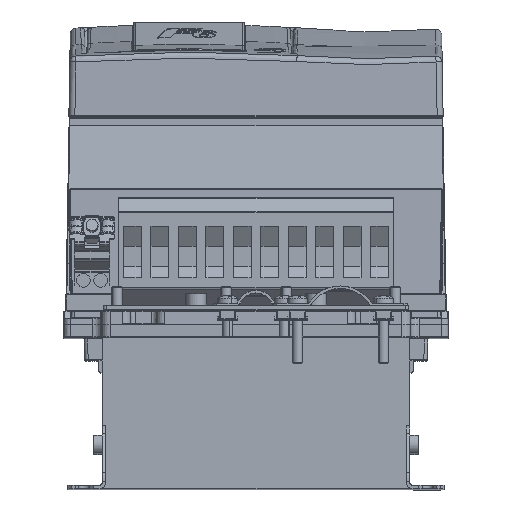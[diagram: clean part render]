
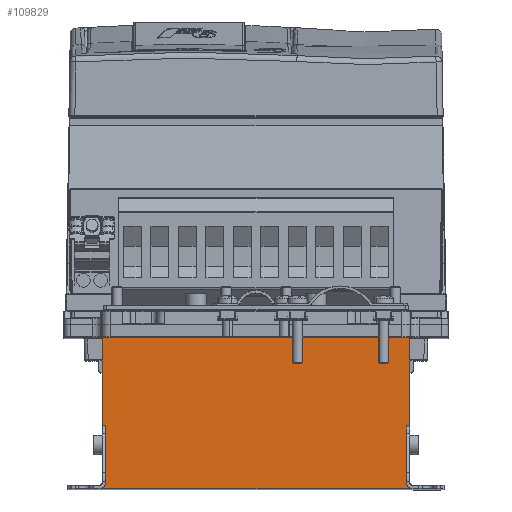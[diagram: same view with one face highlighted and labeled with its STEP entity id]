
A CAD part, top view. The second image highlights one B-rep face of the part: STEP entity #109829.
In plain terms, the highlighted planar face has unit normal (0, 0, 1).
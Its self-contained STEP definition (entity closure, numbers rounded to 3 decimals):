
#3274 = CARTESIAN_POINT ( 'NONE',  ( 87., 10., 159. ) ) ;
#5801 = EDGE_CURVE ( 'NONE', #85781, #67683, #37332, .T. ) ;
#7656 = DIRECTION ( 'NONE',  ( -1., 0., 0. ) ) ;
#9192 = CARTESIAN_POINT ( 'NONE',  ( -87.5, 13., 159. ) ) ;
#9489 = DIRECTION ( 'NONE',  ( 0., 0., -1. ) ) ;
#10273 = FACE_OUTER_BOUND ( 'NONE', #91333, .T. ) ;
#15371 = VERTEX_POINT ( 'NONE', #25381 ) ;
#16420 = ORIENTED_EDGE ( 'NONE', *, *, #116152, .F. ) ;
#17045 = CARTESIAN_POINT ( 'NONE',  ( -89.5, -75., 159. ) ) ;
#17199 = CARTESIAN_POINT ( 'NONE',  ( -87.5, -38., 159. ) ) ;
#18766 = LINE ( 'NONE', #66063, #56577 ) ;
#19753 = CARTESIAN_POINT ( 'NONE',  ( 89.5, -38., 159. ) ) ;
#20284 = DIRECTION ( 'NONE',  ( 0., -1., 0. ) ) ;
#20365 = DIRECTION ( 'NONE',  ( -1., 0., 0. ) ) ;
#21633 = PLANE ( 'NONE',  #71684 ) ;
#24004 = ORIENTED_EDGE ( 'NONE', *, *, #30196, .T. ) ;
#25221 = CIRCLE ( 'NONE', #87715, 4. ) ;
#25381 = CARTESIAN_POINT ( 'NONE',  ( 89.5, -38., 159. ) ) ;
#26044 = CARTESIAN_POINT ( 'NONE',  ( 91.5, -38., 159. ) ) ;
#28257 = VERTEX_POINT ( 'NONE', #113509 ) ;
#30196 = EDGE_CURVE ( 'NONE', #59697, #80621, #25221, .T. ) ;
#34382 = DIRECTION ( 'NONE',  ( 0., -1., 0. ) ) ;
#37256 = EDGE_CURVE ( 'NONE', #108425, #67683, #18766, .T. ) ;
#37332 = LINE ( 'NONE', #114932, #45359 ) ;
#42048 = ORIENTED_EDGE ( 'NONE', *, *, #118722, .T. ) ;
#44393 = ORIENTED_EDGE ( 'NONE', *, *, #37256, .T. ) ;
#44439 = CARTESIAN_POINT ( 'NONE',  ( -85.5, -38., 159. ) ) ;
#45359 = VECTOR ( 'NONE', #7656, 1000. ) ;
#50009 = LINE ( 'NONE', #19753, #75912 ) ;
#51746 = CARTESIAN_POINT ( 'NONE',  ( -85.5, -71., 159. ) ) ;
#53957 = EDGE_CURVE ( 'NONE', #83896, #15371, #50009, .T. ) ;
#53958 = ORIENTED_EDGE ( 'NONE', *, *, #70246, .T. ) ;
#56577 = VECTOR ( 'NONE', #105846, 1000. ) ;
#57644 = DIRECTION ( 'NONE',  ( 0., 1., 0. ) ) ;
#58210 = DIRECTION ( 'NONE',  ( -1., 0., 0. ) ) ;
#59697 = VERTEX_POINT ( 'NONE', #51746 ) ;
#61549 = VERTEX_POINT ( 'NONE', #91401 ) ;
#62138 = LINE ( 'NONE', #120819, #71602 ) ;
#62949 = ORIENTED_EDGE ( 'NONE', *, *, #90809, .F. ) ;
#64301 = CIRCLE ( 'NONE', #122796, 4. ) ;
#66021 = ORIENTED_EDGE ( 'NONE', *, *, #123620, .F. ) ;
#66063 = CARTESIAN_POINT ( 'NONE',  ( -87.5, 13., 159. ) ) ;
#67575 = CARTESIAN_POINT ( 'NONE',  ( 93.5, -71., 159. ) ) ;
#67683 = VERTEX_POINT ( 'NONE', #17199 ) ;
#69111 = VECTOR ( 'NONE', #57644, 1000. ) ;
#69315 = ORIENTED_EDGE ( 'NONE', *, *, #53957, .F. ) ;
#69361 = LINE ( 'NONE', #99076, #93799 ) ;
#70246 = EDGE_CURVE ( 'NONE', #83896, #84782, #69361, .T. ) ;
#71602 = VECTOR ( 'NONE', #34382, 1000. ) ;
#71684 = AXIS2_PLACEMENT_3D ( 'NONE', #3274, #96700, #20365 ) ;
#72022 = EDGE_CURVE ( 'NONE', #80621, #28257, #99994, .T. ) ;
#72184 = CARTESIAN_POINT ( 'NONE',  ( 91.5, 13., 159. ) ) ;
#74035 = VECTOR ( 'NONE', #76759, 1000. ) ;
#75734 = DIRECTION ( 'NONE',  ( 0., -1., 0. ) ) ;
#75912 = VECTOR ( 'NONE', #58210, 1000. ) ;
#76759 = DIRECTION ( 'NONE',  ( 1., 0., 0. ) ) ;
#77801 = CARTESIAN_POINT ( 'NONE',  ( -85.5, -73., 159. ) ) ;
#80621 = VERTEX_POINT ( 'NONE', #17045 ) ;
#83896 = VERTEX_POINT ( 'NONE', #26044 ) ;
#84782 = VERTEX_POINT ( 'NONE', #72184 ) ;
#85781 = VERTEX_POINT ( 'NONE', #44439 ) ;
#87715 = AXIS2_PLACEMENT_3D ( 'NONE', #114886, #9489, #75734 ) ;
#90809 = EDGE_CURVE ( 'NONE', #15371, #61549, #62138, .T. ) ;
#91333 = EDGE_LOOP ( 'NONE', ( #42048, #62949, #69315, #53958, #16420, #44393, #118476, #66021, #24004, #95739 ) ) ;
#91401 = CARTESIAN_POINT ( 'NONE',  ( 89.5, -71., 159. ) ) ;
#93799 = VECTOR ( 'NONE', #100311, 1000. ) ;
#95739 = ORIENTED_EDGE ( 'NONE', *, *, #72022, .T. ) ;
#96700 = DIRECTION ( 'NONE',  ( 0., 0., 1. ) ) ;
#98741 = DIRECTION ( 'NONE',  ( 1., 0., 0. ) ) ;
#99076 = CARTESIAN_POINT ( 'NONE',  ( 91.5, -74.464, 159. ) ) ;
#99642 = VECTOR ( 'NONE', #98741, 1000. ) ;
#99994 = LINE ( 'NONE', #120133, #99642 ) ;
#100311 = DIRECTION ( 'NONE',  ( 0., 1., 0. ) ) ;
#105846 = DIRECTION ( 'NONE',  ( 0., -1., 0. ) ) ;
#106237 = LINE ( 'NONE', #77801, #69111 ) ;
#108425 = VERTEX_POINT ( 'NONE', #9192 ) ;
#109829 = ADVANCED_FACE ( 'NONE', ( #10273 ), #21633, .T. ) ;
#113509 = CARTESIAN_POINT ( 'NONE',  ( 93.5, -75., 159. ) ) ;
#114886 = CARTESIAN_POINT ( 'NONE',  ( -89.5, -71., 159. ) ) ;
#114932 = CARTESIAN_POINT ( 'NONE',  ( -85.5, -38., 159. ) ) ;
#115285 = LINE ( 'NONE', #124756, #74035 ) ;
#116152 = EDGE_CURVE ( 'NONE', #108425, #84782, #115285, .T. ) ;
#118074 = DIRECTION ( 'NONE',  ( 0., 0., -1. ) ) ;
#118476 = ORIENTED_EDGE ( 'NONE', *, *, #5801, .F. ) ;
#118722 = EDGE_CURVE ( 'NONE', #28257, #61549, #64301, .T. ) ;
#120133 = CARTESIAN_POINT ( 'NONE',  ( -89.5, -75., 159. ) ) ;
#120819 = CARTESIAN_POINT ( 'NONE',  ( 89.5, -73., 159. ) ) ;
#122796 = AXIS2_PLACEMENT_3D ( 'NONE', #67575, #118074, #20284 ) ;
#123620 = EDGE_CURVE ( 'NONE', #59697, #85781, #106237, .T. ) ;
#124756 = CARTESIAN_POINT ( 'NONE',  ( 2., 13., 159. ) ) ;
